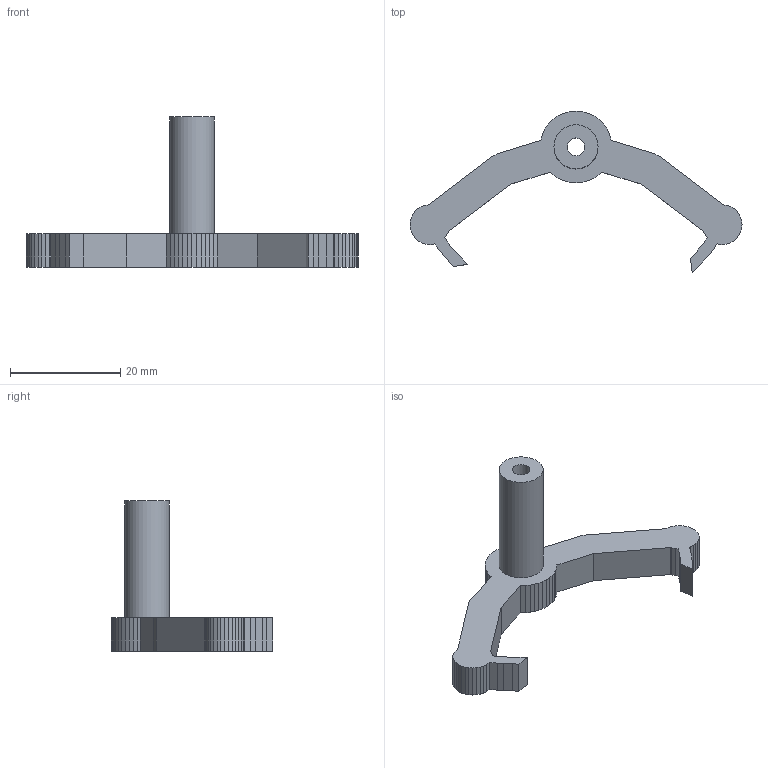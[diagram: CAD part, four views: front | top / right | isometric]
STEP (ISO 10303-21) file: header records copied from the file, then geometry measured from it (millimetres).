
FILE_DESCRIPTION(('Open CASCADE Model'),'2;1');
FILE_NAME('Open CASCADE Shape Model','2026-10-12T22:10:17',('Author'),( 'Open CASCADE'),'Open CASCADE STEP processor 7.9','Open CASCADE 7.9' ,'Unknown');
FILE_SCHEMA(('AUTOMOTIVE_DESIGN { 1 0 10303 214 1 1 1 1 }'));
Length unit declared in the file: millimetre
Products named in the file (1): Open CASCADE STEP translator 7.9 18
Bounding box: 60.18 x 29.31 x 27.2 mm (x, y, z)
Volume: 3790.5 mm3; surface area: 2819.5 mm2
Topology: 1 solids, 1 shells, 109 faces, 318 edges, 212 vertices
Faces by surface type: plane 107, cylinder 2
Full cylindrical faces by diameter (mm): 3.2 x1, 8 x1
Entity records: 7690 total; most frequent: CARTESIAN_POINT 1288, DIRECTION 1176, LINE 946, VECTOR 946, ORIENTED_EDGE 636, PCURVE 636, DEFINITIONAL_REPRESENTATION 636, EDGE_CURVE 318
